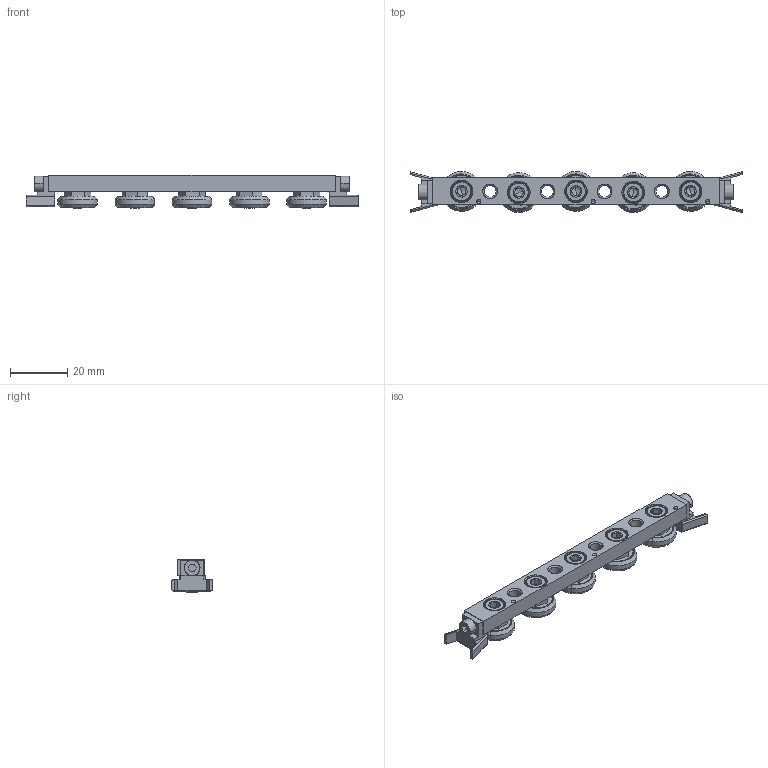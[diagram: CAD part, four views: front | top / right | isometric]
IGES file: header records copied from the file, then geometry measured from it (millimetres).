
Start section: SolidWorks IGES file using analytic representation for surfaces
Global section: file name: E:\J-00018 - L1918-L1963 LCompact Rail\L1918_v2\L1918.CSW18_v2\L1918.CSW18_IGES\L1918.CSW18-100-2ZU.igs; native system: SolidWorks 2017; preprocessor: SolidWorks 2017; author: liam_; date: 190629.230546; units: millimetre
Bounding box: 116 x 14.33 x 11.54 mm (x, y, z)
Surface area: 8816.8 mm2 (no closed solid volume)
Topology: 0 solids, 0 shells, 491 faces, 6420 edges, 6388 vertices
Faces by surface type: bspline 261, revolution 230
